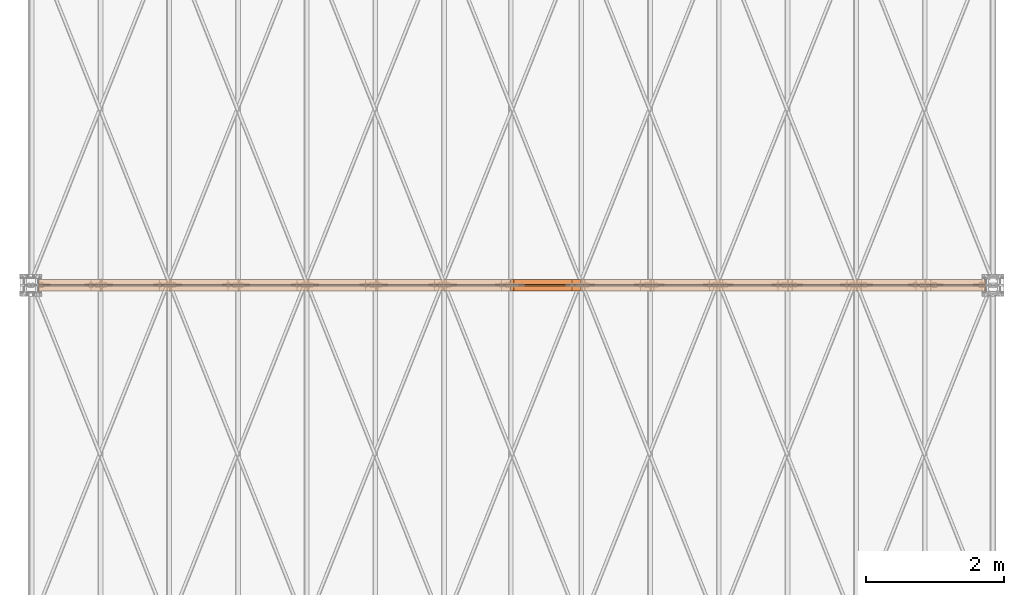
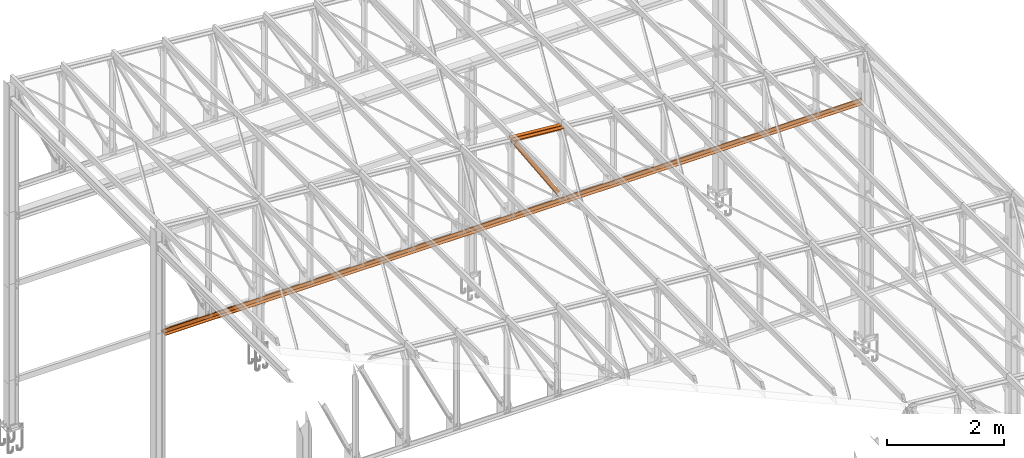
# One storey, part 240 of 251: 6 proxies.
"""IFC4 building model written with IfcOpenShell, lengths in metres."""

from ifc_helpers import new_model, si_unit, frame, origin_with_axes, origin_2d_with_axis, place, context, project, spatial, polyline, i_section, outline, extrude, material, material_profile, profile_set, profile_usage, type_object, element, save


model = new_model("IFC4")

# Units and contexts
model_context = context("Model", 3, precision=1e-05, world=origin_with_axes())
ifc_project = project(units=[si_unit("LENGTHUNIT", "METRE"), si_unit("AREAUNIT", "SQUARE_METRE"), si_unit("VOLUMEUNIT", "CUBIC_METRE"), si_unit("MASSUNIT", "GRAM", prefix="KILO"), si_unit("TIMEUNIT", "SECOND"), si_unit("PLANEANGLEUNIT", "RADIAN"), si_unit("SOLIDANGLEUNIT", "STERADIAN"), si_unit("THERMODYNAMICTEMPERATUREUNIT", "DEGREE_CELSIUS")], contexts=[model_context])

# Site, building, storey
placement_1 = place(None, origin_with_axes())
site = spatial("IfcSite", under=ifc_project, at=placement_1, Name="Italia", CompositionType="ELEMENT")
building = spatial("IfcBuilding", under=site, at=placement_1, Name="Deposito", CompositionType="ELEMENT")
storey = spatial("IfcBuildingStorey", under=building, at=placement_1, Name="Storey 0", CompositionType="ELEMENT", Elevation=0.0)

# Proxies
ifc_material = material(Name="Acciaio", Category="Acciaio")
ifc_material_profile = material_profile(ifc_material, i_section(OverallWidth=0.2, OverallDepth=0.19, WebThickness=0.006, FlangeThickness=0.01, FilletRadius=0.018, at=origin_2d_with_axis()), Name="7 PILASTRO HEA200")
ifc_profile_set = profile_set([ifc_material_profile])
ifc_profile_usage_1 = profile_usage(ifc_profile_set, cardinal=1)
member_type_1 = type_object("IfcMemberType", Name="5 2L80x8", PredefinedType="MEMBER", material=ifc_profile_usage_1)
placement_2 = place(placement_1, origin_with_axes())
proxy_1_placement = place(placement_2, origin_with_axes())
element("IfcBuildingElementProxy", 1, at=proxy_1_placement, inside=storey, type_object=member_type_1, Name="80004", context=model_context, shape_type="SweptSolid", body=[
    extrude(outline(polyline([(0.0, 0.0), (-0.0799999, 0.0), (-0.0799999, 0.0079999), (-0.00799942, 0.0079999), (-0.00799942, 0.0799999), (0.0, 0.0799999), (0.0, 0.0)])), frame((6.15505, 14.995, 4.97748), z_axis=(1.0, 0.0, 0.0), x_axis=(0.0, 1.0, 0.0)), (0.0, 0.0, 1.0), 13.7399),
])
ifc_profile_usage_2 = profile_usage(ifc_profile_set, cardinal=1)
member_type_2 = type_object("IfcMemberType", Name="5 2L80x8", PredefinedType="MEMBER", material=ifc_profile_usage_2)
proxy_2_placement = place(placement_2, origin_with_axes())
element("IfcBuildingElementProxy", 2, at=proxy_2_placement, inside=storey, type_object=member_type_2, Name="80004", context=model_context, shape_type="SweptSolid", body=[
    extrude(outline(polyline([(0.0, 0.0), (0.00799942, 0.0), (0.00799942, -0.072), (0.0799999, -0.072), (0.0799999, -0.0799999), (0.0, -0.0799999), (0.0, 0.0)])), frame((6.15505, 15.005, 5.05748), z_axis=(1.0, 0.0, 0.0), x_axis=(0.0, 1.0, 0.0)), (0.0, 0.0, 1.0), 13.7399),
])
ifc_profile_usage_3 = profile_usage(ifc_profile_set, cardinal=2)
member_type_3 = type_object("IfcMemberType", Name="5 2L80x8", PredefinedType="MEMBER", material=ifc_profile_usage_3)
proxy_3_placement = place(placement_2, origin_with_axes())
element("IfcBuildingElementProxy", 3, at=proxy_3_placement, inside=storey, type_object=member_type_3, Name="230074", context=model_context, shape_type="SweptSolid", body=[
    extrude(outline(polyline([(0.0, 0.0), (0.0799999, 0.0), (0.0799999, -0.00800037), (0.00799942, -0.00800037), (0.00799942, -0.0799999), (0.0, -0.0799999), (0.0, 0.0)])), frame((13.0069, 15.005, 6.6321), z_axis=(0.996389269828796, 0.0, -0.084902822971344), x_axis=(0.0, 1.0, 0.0)), (0.0, 0.0, 1.0), 1.01649),
])
ifc_profile_usage_4 = profile_usage(ifc_profile_set, cardinal=2)
member_type_4 = type_object("IfcMemberType", Name="5 2L80x8", PredefinedType="MEMBER", material=ifc_profile_usage_4)
proxy_4_placement = place(placement_2, origin_with_axes())
element("IfcBuildingElementProxy", 4, at=proxy_4_placement, inside=storey, type_object=member_type_4, Name="230074", context=model_context, shape_type="SweptSolid", body=[
    extrude(outline(polyline([(0.0, 0.0), (-0.00799942, 0.0), (-0.00799942, 0.0719995), (-0.0799999, 0.0719995), (-0.0799999, 0.0799999), (0.0, 0.0799999), (0.0, 0.0)])), frame((13.0001, 14.995, 6.55239), z_axis=(0.996389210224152, 0.0, -0.084902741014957), x_axis=(0.0, 1.0, 0.0)), (0.0, 0.0, 1.0), 1.01649),
])
ifc_profile_usage_5 = profile_usage(ifc_profile_set, cardinal=1)
member_type_5 = type_object("IfcMemberType", Name="5 2L80x8", PredefinedType="MEMBER", material=ifc_profile_usage_5)
proxy_5_placement = place(placement_2, origin_with_axes())
element("IfcBuildingElementProxy", 5, at=proxy_5_placement, inside=storey, type_object=member_type_5, Name="160004", context=model_context, shape_type="SweptSolid", body=[
    extrude(outline(polyline([(0.0, 0.0), (-0.0799999, 0.0), (-0.0799999, 0.00799942), (-0.00799942, 0.00799942), (-0.00799942, 0.0799999), (0.0, 0.0799999), (0.0, 0.0)])), frame((13.05, 14.995, 6.4894), z_axis=(0.536214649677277, 0.0, -0.844081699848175), x_axis=(0.0, 1.0, 0.0)), (0.0, 0.0, 1.0), 1.5624),
])
ifc_profile_usage_6 = profile_usage(ifc_profile_set, cardinal=1)
member_type_6 = type_object("IfcMemberType", Name="5 2L80x8", PredefinedType="MEMBER", material=ifc_profile_usage_6)
proxy_6_placement = place(placement_2, origin_with_axes())
element("IfcBuildingElementProxy", 6, at=proxy_6_placement, inside=storey, type_object=member_type_6, Name="160004", context=model_context, shape_type="SweptSolid", body=[
    extrude(outline(polyline([(0.0, 0.0), (0.00799942, 0.0), (0.00799942, -0.0720005), (0.0799999, -0.0720005), (0.0799999, -0.0799999), (0.0, -0.0799999), (0.0, 0.0)])), frame((13.1175, 15.005, 6.5323), z_axis=(0.536214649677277, 0.0, -0.844081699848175), x_axis=(0.0, 1.0, 0.0)), (0.0, 0.0, 1.0), 1.5624),
])

save(model, "model.ifc")
